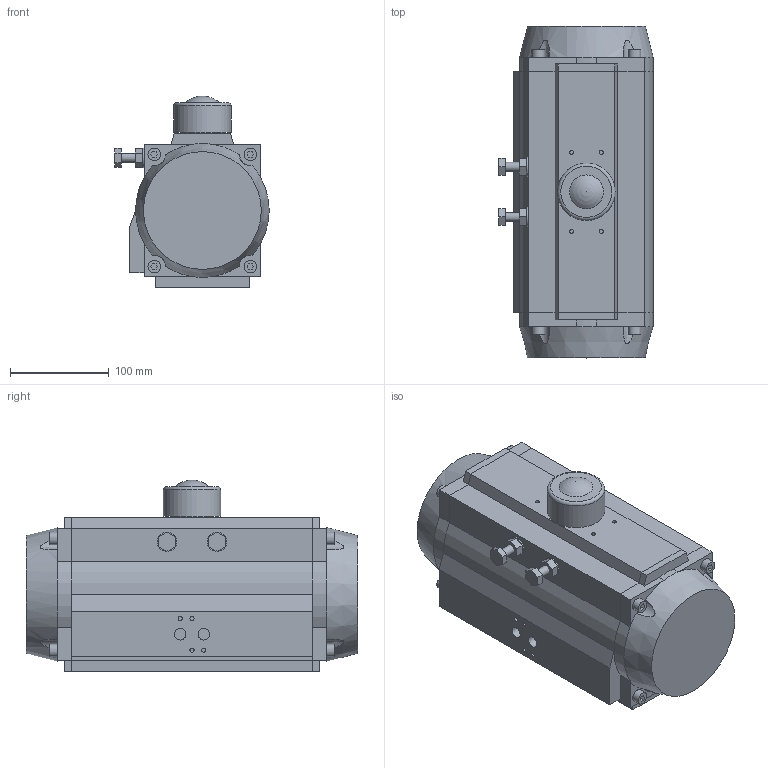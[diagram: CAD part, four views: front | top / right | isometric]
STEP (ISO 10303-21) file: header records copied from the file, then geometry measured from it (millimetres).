
FILE_DESCRIPTION(('Open CASCADE Model'),'2;1');
FILE_NAME('Open CASCADE Shape Model','2023-01-26T10:26:16',('Author'),( 'Open CASCADE'),'Open CASCADE STEP processor 7.3','Open CASCADE 7.3' ,'Unknown');
FILE_SCHEMA(('AUTOMOTIVE_DESIGN { 1 0 10303 214 1 1 1 1 }'));
Length unit declared in the file: millimetre
Products named in the file (24): Open CASCADE STEP translator 7.3 1; Open CASCADE STEP translator 7.3 1.1; Open CASCADE STEP translator 7.3 1.2; Open CASCADE STEP translator 7.3 1.3; Open CASCADE STEP translator 7.3 1.4; Open CASCADE STEP translator 7.3 1.5; Open CASCADE STEP translator 7.3 1.6; Open CASCADE STEP translator 7.3 1.7; Open CASCADE STEP translator 7.3 1.8; Open CASCADE STEP translator 7.3 1.9; Open CASCADE STEP translator 7.3 1.10; Open CASCADE STEP translator 7.3 1.11; Open CASCADE STEP translator 7.3 1.12; Open CASCADE STEP translator 7.3 1.13; Open CASCADE STEP translator 7.3 1.14; Open CASCADE STEP translator 7.3 1.15; Open CASCADE STEP translator 7.3 1.16; Open CASCADE STEP translator 7.3 1.17; Open CASCADE STEP translator 7.3 1.18; Open CASCADE STEP translator 7.3 1.19; Open CASCADE STEP translator 7.3 1.20; Open CASCADE STEP translator 7.3 1.21; Open CASCADE STEP translator 7.3 1.22; Open CASCADE STEP translator 7.3 1.23
Assembly tree (23 placements, depth 2):
  Open CASCADE STEP translator 7.3 1
    Open CASCADE STEP translator 7.3 1.1
    Open CASCADE STEP translator 7.3 1.2
    Open CASCADE STEP translator 7.3 1.3
    Open CASCADE STEP translator 7.3 1.4
    Open CASCADE STEP translator 7.3 1.5
    Open CASCADE STEP translator 7.3 1.6
    Open CASCADE STEP translator 7.3 1.7
    Open CASCADE STEP translator 7.3 1.8
    Open CASCADE STEP translator 7.3 1.9
    Open CASCADE STEP translator 7.3 1.10
    Open CASCADE STEP translator 7.3 1.11
    Open CASCADE STEP translator 7.3 1.12
    Open CASCADE STEP translator 7.3 1.13
    Open CASCADE STEP translator 7.3 1.14
    Open CASCADE STEP translator 7.3 1.15
    Open CASCADE STEP translator 7.3 1.16
    Open CASCADE STEP translator 7.3 1.17
    Open CASCADE STEP translator 7.3 1.18
    Open CASCADE STEP translator 7.3 1.19
    Open CASCADE STEP translator 7.3 1.20
    Open CASCADE STEP translator 7.3 1.21
    Open CASCADE STEP translator 7.3 1.22
    Open CASCADE STEP translator 7.3 1.23
Bounding box: 156.53 x 336.17 x 194.31 mm (x, y, z)
Volume: 6050601.6 mm3; surface area: 345068.1 mm2
Topology: 23 solids, 23 shells, 298 faces, 649 edges, 428 vertices
Faces by surface type: plane 138, bspline 111, cylinder 45, cone 2, torus 1, sphere 1
Full cylindrical faces by diameter (mm): 4.064 x4, 4.191 x4, 5.207 x1, 8 x4, 10 x4, 11.684 x2, 12.827 x4, 29.845 x1, 39.624 x1, 40.005 x1, 52.832 x2, 58.166 x1
Entity records: 20075 total; most frequent: CARTESIAN_POINT 7659, DIRECTION 1843, ORIENTED_EDGE 1296, PCURVE 1296, DEFINITIONAL_REPRESENTATION 1296, LINE 1103, VECTOR 1103, EDGE_CURVE 648
